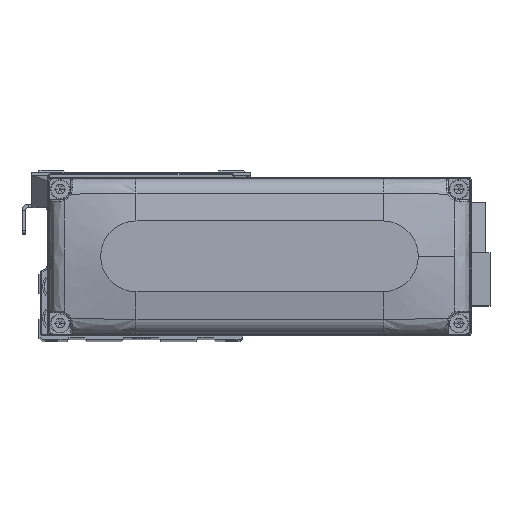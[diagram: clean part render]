
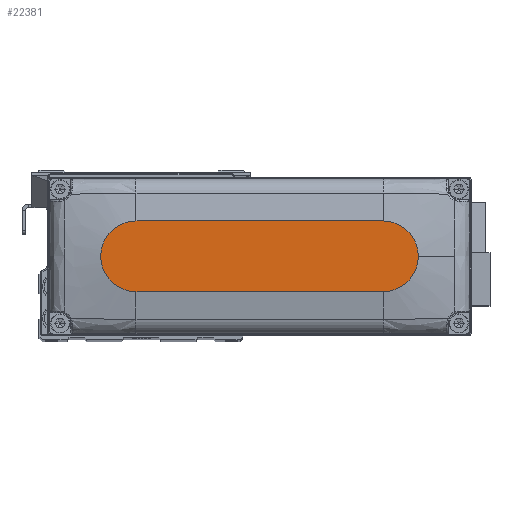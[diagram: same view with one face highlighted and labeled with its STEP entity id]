
A CAD part, top view. The second image highlights one B-rep face of the part: STEP entity #22381.
In plain terms, the highlighted planar face has unit normal (0, 0, 1).
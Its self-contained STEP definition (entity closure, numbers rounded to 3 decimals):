
#747 = CARTESIAN_POINT ( 'NONE',  ( -35., -10., 28. ) ) ;
#907 = LINE ( 'NONE', #13698, #32132 ) ;
#1242 = AXIS2_PLACEMENT_3D ( 'NONE', #31758, #2976, #15773 ) ;
#1374 = AXIS2_PLACEMENT_3D ( 'NONE', #41233, #12449, #25285 ) ;
#2186 = CARTESIAN_POINT ( 'NONE',  ( 45., 0., 28. ) ) ;
#2486 = CIRCLE ( 'NONE', #25992, 10. ) ;
#2668 = AXIS2_PLACEMENT_3D ( 'NONE', #35696, #6927, #19717 ) ;
#2976 = DIRECTION ( 'NONE',  ( 0., 0., 1. ) ) ;
#3140 = DIRECTION ( 'NONE',  ( 0., 0., 1. ) ) ;
#4611 = ORIENTED_EDGE ( 'NONE', *, *, #11322, .T. ) ;
#5540 = ORIENTED_EDGE ( 'NONE', *, *, #19972, .T. ) ;
#6810 = ORIENTED_EDGE ( 'NONE', *, *, #8672, .T. ) ;
#6927 = DIRECTION ( 'NONE',  ( 0., 0., 1. ) ) ;
#8672 = EDGE_CURVE ( 'NONE', #19201, #19113, #29537, .T. ) ;
#10418 = CARTESIAN_POINT ( 'NONE',  ( 35., 10., 28. ) ) ;
#11322 = EDGE_CURVE ( 'NONE', #19113, #13994, #2486, .T. ) ;
#12449 = DIRECTION ( 'NONE',  ( 0., 0., 1. ) ) ;
#13538 = DIRECTION ( 'NONE',  ( 1., 0., 0. ) ) ;
#13698 = CARTESIAN_POINT ( 'NONE',  ( -35., 10., 28. ) ) ;
#13994 = VERTEX_POINT ( 'NONE', #2186 ) ;
#14774 = EDGE_LOOP ( 'NONE', ( #5540, #35944, #6810, #4611, #37351 ) ) ;
#15639 = FACE_OUTER_BOUND ( 'NONE', #14774, .T. ) ;
#15773 = DIRECTION ( 'NONE',  ( 1., 0., 0. ) ) ;
#15942 = DIRECTION ( 'NONE',  ( 1., 0., 0. ) ) ;
#16680 = CARTESIAN_POINT ( 'NONE',  ( -35., 10., 28. ) ) ;
#17960 = EDGE_CURVE ( 'NONE', #13994, #27302, #19350, .T. ) ;
#19113 = VERTEX_POINT ( 'NONE', #37039 ) ;
#19201 = VERTEX_POINT ( 'NONE', #31337 ) ;
#19350 = CIRCLE ( 'NONE', #1242, 10. ) ;
#19717 = DIRECTION ( 'NONE',  ( 1., 0., 0. ) ) ;
#19972 = EDGE_CURVE ( 'NONE', #27302, #25917, #907, .T. ) ;
#20768 = CIRCLE ( 'NONE', #2668, 10. ) ;
#22381 = ADVANCED_FACE ( 'NONE', ( #15639 ), #28459, .T. ) ;
#22729 = VECTOR ( 'NONE', #13538, 1000. ) ;
#25285 = DIRECTION ( 'NONE',  ( 1., 0., 0. ) ) ;
#25917 = VERTEX_POINT ( 'NONE', #16680 ) ;
#25992 = AXIS2_PLACEMENT_3D ( 'NONE', #31919, #3140, #15942 ) ;
#26531 = DIRECTION ( 'NONE',  ( -1., 0., 0. ) ) ;
#27302 = VERTEX_POINT ( 'NONE', #10418 ) ;
#28459 = PLANE ( 'NONE',  #1374 ) ;
#29537 = LINE ( 'NONE', #747, #22729 ) ;
#31337 = CARTESIAN_POINT ( 'NONE',  ( -35., -10., 28. ) ) ;
#31758 = CARTESIAN_POINT ( 'NONE',  ( 35., 0., 28. ) ) ;
#31919 = CARTESIAN_POINT ( 'NONE',  ( 35., 0., 28. ) ) ;
#32132 = VECTOR ( 'NONE', #26531, 1000. ) ;
#35696 = CARTESIAN_POINT ( 'NONE',  ( -35., 0., 28. ) ) ;
#35944 = ORIENTED_EDGE ( 'NONE', *, *, #40694, .T. ) ;
#37039 = CARTESIAN_POINT ( 'NONE',  ( 35., -10., 28. ) ) ;
#37351 = ORIENTED_EDGE ( 'NONE', *, *, #17960, .T. ) ;
#40694 = EDGE_CURVE ( 'NONE', #25917, #19201, #20768, .T. ) ;
#41233 = CARTESIAN_POINT ( 'NONE',  ( 0., 0., 28. ) ) ;
